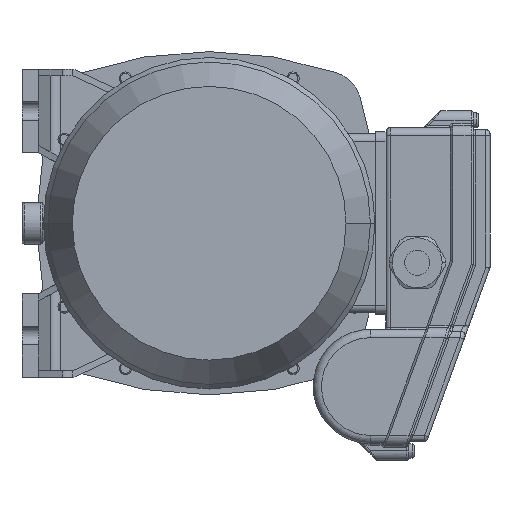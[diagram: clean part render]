
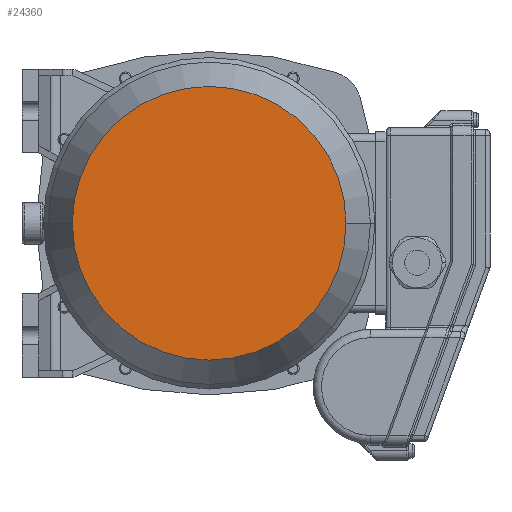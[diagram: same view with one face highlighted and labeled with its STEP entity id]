
A CAD part, front view. The second image highlights one B-rep face of the part: STEP entity #24360.
In plain terms, the highlighted planar face has unit normal (0, -1, 0) as drawn and (1, 0, 0) by its records, which use the part's own axes.
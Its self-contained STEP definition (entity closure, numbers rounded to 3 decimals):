
#18453=CARTESIAN_POINT('',(203.,0.,0.));
#18454=DIRECTION('',(-1.,0.,0.));
#18455=DIRECTION('',(0.,1.,0.));
#18456=AXIS2_PLACEMENT_3D('',#18453,#18454,#18455);
#18461=CARTESIAN_POINT('',(203.,0.,0.));
#18462=DIRECTION('',(1.,0.,0.));
#18463=DIRECTION('',(0.,1.,0.));
#18464=AXIS2_PLACEMENT_3D('',#18461,#18462,#18463);
#19769=CARTESIAN_POINT('',(203.,65.794,0.));
#19771=VERTEX_POINT('',#19769);
#19779=CARTESIAN_POINT('',(203.,-65.794,0.));
#19781=VERTEX_POINT('',#19779);
#24351=CARTESIAN_POINT('',(203.,0.,0.));
#24352=DIRECTION('',(1.,0.,0.));
#24353=DIRECTION('',(0.,-1.,0.));
#24354=AXIS2_PLACEMENT_3D('',#24351,#24352,#24353);
#24355=PLANE('',#24354);
#24356=ORIENTED_EDGE('',*,*,#24333,.T.);
#24357=ORIENTED_EDGE('',*,*,#24344,.F.);
#24358=EDGE_LOOP('',(#24356,#24357));
#24359=FACE_OUTER_BOUND('',#24358,.F.);
#18457=CIRCLE('',#18456,65.794);
#18465=CIRCLE('',#18464,65.794);
#24333=EDGE_CURVE('',#19771,#19781,#18457,.T.);
#24344=EDGE_CURVE('',#19771,#19781,#18465,.T.);
#24360=ADVANCED_FACE('',(#24359),#24355,.T.);
